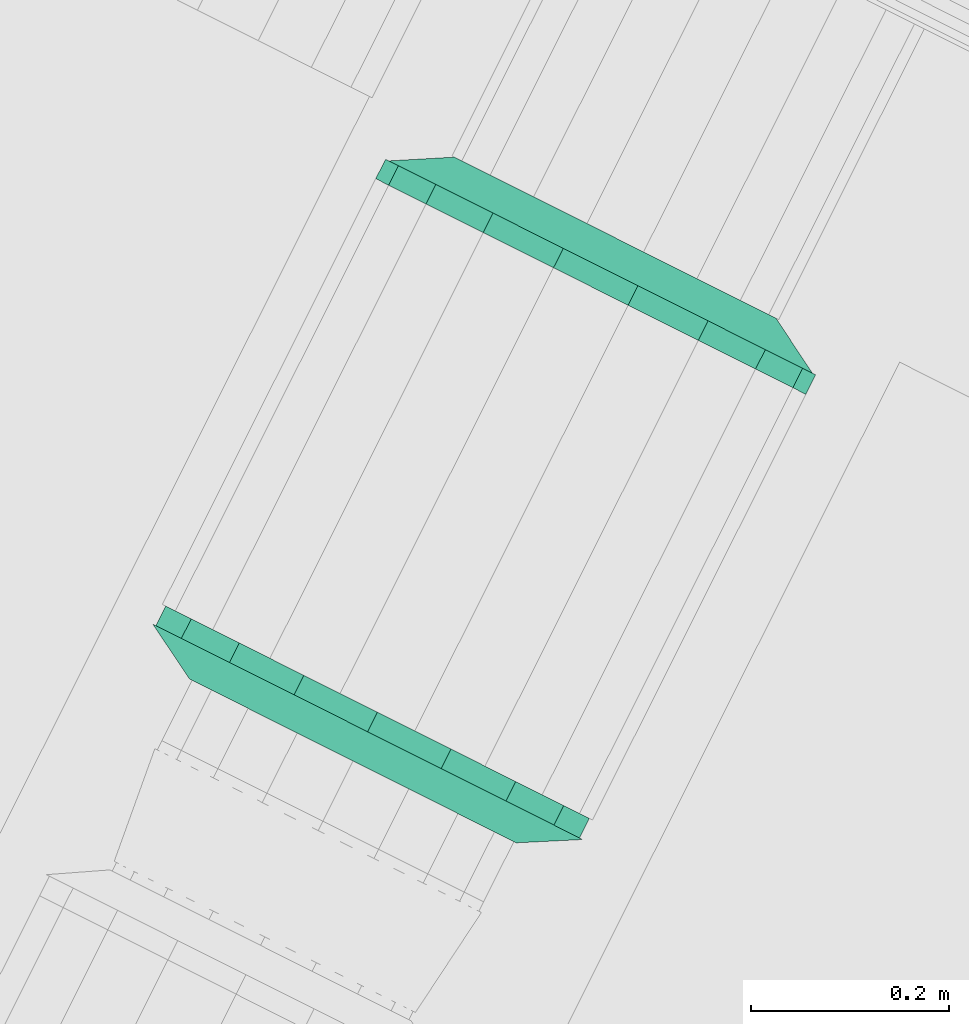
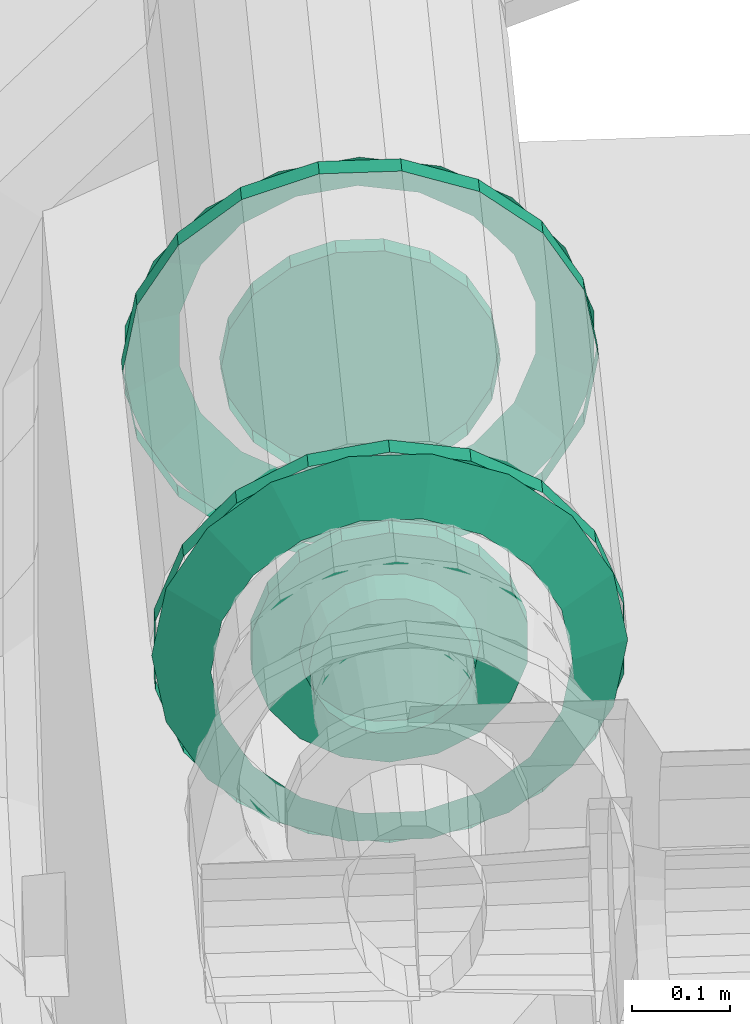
# One storey, part 117 of 206: 2 flow fittings.
"""IFC2X3 building model written with IfcOpenShell, lengths in metres."""

from ifc_helpers import new_model, si_unit, derived_unit, direction, frame, origin, place, context, subcontext, project, spatial, face_set, surface_model, source, transform, mapped, material, type_object, type_shapes, element, save


model = new_model("IFC2X3")

# Units and contexts
model_context = context("Model", 3, precision=5.2338327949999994e-05, world=origin(), true_north=direction((0.0, 1.0)))
body_context = subcontext(model_context, "Body", "Model", "MODEL_VIEW")
ifc_project = project(units=[si_unit("LENGTHUNIT", "METRE"), si_unit("AREAUNIT", "SQUARE_METRE"), si_unit("VOLUMEUNIT", "CUBIC_METRE"), si_unit("MASSUNIT", "GRAM", prefix="KILO"), si_unit("PLANEANGLEUNIT", "RADIAN"), derived_unit("THERMALTRANSMITTANCEUNIT", [(si_unit("MASSUNIT", "GRAM", prefix="KILO"), 1), (si_unit("THERMODYNAMICTEMPERATUREUNIT", "KELVIN"), -1), (si_unit("TIMEUNIT", "SECOND"), -3)])], contexts=[model_context])

# Site, building, storey
site_placement = place(None, frame((0.0, 0.0, 0.0), z_axis=(0.0, 0.0, 1.0), x_axis=(0.8939966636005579, -0.4480736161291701, 0.0)))
site = spatial("IfcSite", under=ifc_project, at=site_placement, Name="Default", CompositionType="ELEMENT")
building_placement = place(site_placement, origin())
building = spatial("IfcBuilding", under=site, at=building_placement, CompositionType="ELEMENT")
storey_placement = place(building_placement, origin())
storey = spatial("IfcBuildingStorey", under=building, at=storey_placement, Name="Erdgeschoss", CompositionType="ELEMENT", Elevation=0.0)

# Flow fittings
ifc_material = material(Name="IfcSurfaceStyle #1741")
distribution_element_type_1 = type_object("IfcDistributionElementType", Name="Flansch 320350:Flansch 320350", material=ifc_material)
shared_shape_1 = source(origin(), body_context, "Body", "SurfaceModel", [
    surface_model("IfcFaceBasedSurfaceModel", [(23.169003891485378, 7.121892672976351, 2.3540000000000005), (23.163929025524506, 7.121892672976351, 2.325219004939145), (23.171305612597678, 7.154892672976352, 2.3225341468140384), (23.17685389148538, 7.154892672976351, 2.354), (23.149316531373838, 7.121892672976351, 2.2999094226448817), (23.15532998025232, 7.15489267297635, 2.2948635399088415), (23.126928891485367, 7.121892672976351, 2.281123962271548), (23.13085389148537, 7.1548926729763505, 2.2743256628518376), (23.09946638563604, 7.12189267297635, 2.2711284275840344), (23.100829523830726, 7.1548926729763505, 2.2633976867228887), (23.070241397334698, 7.12189267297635, 2.2711284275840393), (23.06887825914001, 7.15489267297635, 2.2633976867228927), (23.04277889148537, 7.121892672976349, 2.281123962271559), (23.038853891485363, 7.15489267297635, 2.274325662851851), (23.020391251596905, 7.121892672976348, 2.299909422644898), (23.01437780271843, 7.154892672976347, 2.2948635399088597), (23.005778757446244, 7.121892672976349, 2.3252190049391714), (22.99840217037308, 7.154892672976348, 2.3225341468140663), (23.000703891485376, 7.121892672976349, 2.354000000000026), (22.992853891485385, 7.154892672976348, 2.3540000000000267), (23.005778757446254, 7.12189267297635, 2.382780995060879), (22.998402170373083, 7.15489267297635, 2.3854658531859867), (23.020391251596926, 7.121892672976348, 2.4080905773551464), (23.01437780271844, 7.154892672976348, 2.413136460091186), (23.04277889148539, 7.121892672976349, 2.42687603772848), (23.0388538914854, 7.15489267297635, 2.4336743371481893), (23.070241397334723, 7.121892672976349, 2.4368715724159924), (23.068878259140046, 7.15489267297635, 2.44460231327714), (23.099466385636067, 7.121892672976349, 2.4368715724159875), (23.100829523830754, 7.1548926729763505, 2.444602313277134), (23.126928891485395, 7.121892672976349, 2.4268760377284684), (23.130853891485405, 7.15489267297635, 2.433674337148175), (23.149316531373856, 7.121892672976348, 2.408090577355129), (23.155329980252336, 7.1548926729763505, 2.4131364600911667), (23.16392902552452, 7.12189267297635, 2.382780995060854), (23.17130561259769, 7.1548926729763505, 2.38546585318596), (23.084853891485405, 7.15489267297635, 2.4965000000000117), (23.133591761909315, 7.15489267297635, 2.487906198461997), (23.133591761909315, 7.17689267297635, 2.487906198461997), (23.08485389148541, 7.17689267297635, 2.4965000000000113), (23.176451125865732, 7.154892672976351, 2.463161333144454), (23.176451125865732, 7.176892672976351, 2.4631613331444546), (23.20826251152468, 7.1548926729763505, 2.425249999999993), (23.20826251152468, 7.176892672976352, 2.425249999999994), (23.225188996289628, 7.154892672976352, 2.3787448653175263), (23.225188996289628, 7.176892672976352, 2.3787448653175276), (23.22518899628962, 7.154892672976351, 2.329255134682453), (23.22518899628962, 7.176892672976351, 2.3292551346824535), (23.208262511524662, 7.154892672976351, 2.2827499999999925), (23.208262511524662, 7.176892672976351, 2.282749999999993), (23.176451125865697, 7.154892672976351, 2.244838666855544), (23.176451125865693, 7.176892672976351, 2.244838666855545), (23.13359176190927, 7.1548926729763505, 2.2200938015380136), (23.13359176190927, 7.176892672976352, 2.2200938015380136), (23.08485389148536, 7.1548926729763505, 2.211500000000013), (23.08485389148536, 7.176892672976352, 2.211500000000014), (23.036116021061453, 7.1548926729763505, 2.2200938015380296), (23.036116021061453, 7.17689267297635, 2.2200938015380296), (22.993256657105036, 7.1548926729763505, 2.2448386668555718), (22.993256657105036, 7.17689267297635, 2.2448386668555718), (22.961445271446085, 7.154892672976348, 2.2827500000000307), (22.96144527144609, 7.17689267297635, 2.2827500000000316), (22.944518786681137, 7.154892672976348, 2.3292551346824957), (22.944518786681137, 7.176892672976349, 2.329255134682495), (22.94451878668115, 7.154892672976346, 2.3787448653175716), (22.944518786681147, 7.17689267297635, 2.3787448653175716), (22.961445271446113, 7.15489267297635, 2.425250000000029), (22.961445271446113, 7.176892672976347, 2.425250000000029), (22.99325665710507, 7.15489267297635, 2.4631613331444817), (22.99325665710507, 7.176892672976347, 2.4631613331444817), (23.036116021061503, 7.154892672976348, 2.48790619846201), (23.036116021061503, 7.176892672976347, 2.4879061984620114), (23.084853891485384, 7.154892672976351, 2.354000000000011), (23.26900389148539, 7.121892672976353, 2.353999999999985), (23.257898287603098, 7.121892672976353, 2.2910169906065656), (23.312729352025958, 7.154892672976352, 2.2710601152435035), (23.327353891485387, 7.154892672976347, 2.353999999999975), (23.225920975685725, 7.121892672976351, 2.235630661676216), (23.27061966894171, 7.154892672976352, 2.1981240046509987), (23.176928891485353, 7.121892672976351, 2.1945214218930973), (23.20610389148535, 7.154892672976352, 2.143988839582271), (23.116831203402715, 7.121892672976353, 2.172647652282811), (23.126963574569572, 7.154892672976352, 2.115184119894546), (23.052876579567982, 7.121892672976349, 2.1726476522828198), (23.04274420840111, 7.1548926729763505, 2.115184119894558), (22.99277889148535, 7.121892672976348, 2.194521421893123), (22.96360389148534, 7.15489267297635, 2.143988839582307), (22.943786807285, 7.121892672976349, 2.235630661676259), (22.899088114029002, 7.15489267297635, 2.198124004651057), (22.911809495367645, 7.121892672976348, 2.2910169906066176), (22.856978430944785, 7.154892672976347, 2.2710601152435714), (22.900703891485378, 7.121892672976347, 2.3540000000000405), (22.842353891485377, 7.154892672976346, 2.3540000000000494), (22.91180949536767, 7.121892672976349, 2.4169830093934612), (22.85697843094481, 7.154892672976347, 2.436939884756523), (22.94378680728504, 7.121892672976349, 2.4723693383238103), (22.89908811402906, 7.154892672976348, 2.509875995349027), (22.99277889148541, 7.121892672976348, 2.5134785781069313), (22.963603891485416, 7.154892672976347, 2.564011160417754), (23.052876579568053, 7.12189267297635, 2.535352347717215), (23.0427442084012, 7.154892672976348, 2.592815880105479), (23.116831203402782, 7.121892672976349, 2.5353523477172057), (23.126963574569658, 7.154892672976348, 2.5928158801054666), (23.176928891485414, 7.12189267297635, 2.513478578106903), (23.206103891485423, 7.1548926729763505, 2.5640111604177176), (23.225920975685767, 7.121892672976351, 2.472369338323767), (23.270619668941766, 7.154892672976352, 2.5098759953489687), (23.25789828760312, 7.121892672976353, 2.416983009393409), (23.312729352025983, 7.154892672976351, 2.436939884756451), (23.084853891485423, 7.154892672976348, 2.596500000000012), (23.1677937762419, 7.154892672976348, 2.581875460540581), (23.1677937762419, 7.17689267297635, 2.5818754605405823), (23.084853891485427, 7.17689267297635, 2.5965000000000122), (23.240729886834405, 7.154892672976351, 2.5397657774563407), (23.240729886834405, 7.176892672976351, 2.5397657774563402), (23.294865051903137, 7.154892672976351, 2.475249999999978), (23.294865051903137, 7.176892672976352, 2.4752499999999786), (23.323669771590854, 7.154892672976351, 2.3961096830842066), (23.323669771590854, 7.176892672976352, 2.396109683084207), (23.323669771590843, 7.154892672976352, 2.311890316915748), (23.323669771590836, 7.176892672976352, 2.311890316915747), (23.294865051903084, 7.1548926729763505, 2.2327499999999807), (23.294865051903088, 7.176892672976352, 2.232749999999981), (23.24072988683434, 7.154892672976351, 2.1682342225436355), (23.240729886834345, 7.176892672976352, 2.1682342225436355), (23.167793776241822, 7.154892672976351, 2.126124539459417), (23.167793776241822, 7.176892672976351, 2.126124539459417), (23.08485389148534, 7.1548926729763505, 2.111500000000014), (23.084853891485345, 7.176892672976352, 2.111500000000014), (23.001914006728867, 7.154892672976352, 2.1261245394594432), (23.001914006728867, 7.17689267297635, 2.1261245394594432), (22.928977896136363, 7.15489267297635, 2.1682342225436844), (22.928977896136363, 7.176892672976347, 2.1682342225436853), (22.874842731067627, 7.154892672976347, 2.2327500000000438), (22.874842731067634, 7.176892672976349, 2.232750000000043), (22.84603801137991, 7.154892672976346, 2.3118903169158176), (22.84603801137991, 7.176892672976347, 2.311890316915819), (22.846038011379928, 7.154892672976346, 2.3961096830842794), (22.846038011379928, 7.176892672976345, 2.3961096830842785), (22.874842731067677, 7.154892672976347, 2.475250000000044), (22.87484273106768, 7.176892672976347, 2.4752500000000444), (22.928977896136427, 7.154892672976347, 2.539765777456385), (22.928977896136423, 7.176892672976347, 2.5397657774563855), (23.001914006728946, 7.154892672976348, 2.5818754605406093), (23.001914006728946, 7.17689267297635, 2.581875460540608)], [face_set([[[0, 1, 2, 3]], [[1, 4, 5, 2]], [[4, 6, 7, 5]], [[6, 8, 9, 7]], [[8, 10, 11, 9]], [[10, 12, 13, 11]], [[12, 14, 15, 13]], [[14, 16, 17, 15]], [[16, 18, 19, 17]], [[18, 20, 21, 19]], [[20, 22, 23, 21]], [[22, 24, 25, 23]], [[24, 26, 27, 25]], [[26, 28, 29, 27]], [[28, 30, 31, 29]], [[30, 32, 33, 31]], [[32, 34, 35, 33]], [[34, 0, 3, 35]], [[36, 37, 38, 39]], [[37, 40, 41, 38]], [[40, 42, 43, 41]], [[42, 44, 45, 43]], [[44, 46, 47, 45]], [[46, 48, 49, 47]], [[48, 50, 51, 49]], [[50, 52, 53, 51]], [[52, 54, 55, 53]], [[54, 56, 57, 55]], [[56, 58, 59, 57]], [[58, 60, 61, 59]], [[60, 62, 63, 61]], [[62, 64, 65, 63]], [[64, 66, 67, 65]], [[66, 68, 69, 67]], [[68, 70, 71, 69]], [[70, 36, 39, 71]], [[72, 37, 36]], [[72, 40, 37]], [[72, 42, 40]], [[72, 44, 42]], [[72, 46, 44]], [[72, 48, 46]], [[72, 50, 48]], [[72, 52, 50]], [[72, 54, 52]], [[72, 56, 54]], [[72, 58, 56]], [[72, 60, 58]], [[72, 62, 60]], [[72, 64, 62]], [[72, 66, 64]], [[72, 68, 66]], [[72, 70, 68]], [[72, 36, 70]], [[73, 74, 75, 76]], [[74, 77, 78, 75]], [[77, 79, 80, 78]], [[79, 81, 82, 80]], [[81, 83, 84, 82]], [[83, 85, 86, 84]], [[85, 87, 88, 86]], [[87, 89, 90, 88]], [[89, 91, 92, 90]], [[91, 93, 94, 92]], [[93, 95, 96, 94]], [[95, 97, 98, 96]], [[97, 99, 100, 98]], [[99, 101, 102, 100]], [[101, 103, 104, 102]], [[103, 105, 106, 104]], [[105, 107, 108, 106]], [[107, 73, 76, 108]], [[109, 110, 111, 112]], [[110, 113, 114, 111]], [[113, 115, 116, 114]], [[115, 117, 118, 116]], [[117, 119, 120, 118]], [[119, 121, 122, 120]], [[121, 123, 124, 122]], [[123, 125, 126, 124]], [[125, 127, 128, 126]], [[127, 129, 130, 128]], [[129, 131, 132, 130]], [[131, 133, 134, 132]], [[133, 135, 136, 134]], [[135, 137, 138, 136]], [[137, 139, 140, 138]], [[139, 141, 142, 140]], [[141, 143, 144, 142]], [[143, 109, 112, 144]]])]),
])
type_shapes(distribution_element_type_1, [shared_shape_1])
flow_fitting_1_placement = place(storey_placement, origin())
element("IfcFlowFitting", 1, at=flow_fitting_1_placement, inside=storey, type_object=distribution_element_type_1, material=ifc_material, Name="Flansch", ObjectType="Flansch", context=body_context, shape_type="MappedRepresentation", body=[
    mapped(shared_shape_1, transform((0.0, 0.0, 0.0), scale=1.0)),
])
distribution_element_type_2 = type_object("IfcDistributionElementType", Name="Flansch 320377:Flansch 320377", material=ifc_material)
shared_shape_2 = source(origin(), body_context, "Body", "SurfaceModel", [
    surface_model("IfcFaceBasedSurfaceModel", [(22.942353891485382, 7.656892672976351, 2.354), (22.95094769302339, 7.656892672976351, 2.4027378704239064), (22.95094769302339, 7.678892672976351, 2.4027378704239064), (22.942353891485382, 7.678892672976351, 2.354), (22.975692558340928, 7.656892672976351, 2.445597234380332), (22.975692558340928, 7.678892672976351, 2.445597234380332), (23.013603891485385, 7.656892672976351, 2.4774086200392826), (23.013603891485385, 7.678892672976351, 2.4774086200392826), (23.060109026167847, 7.656892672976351, 2.49433510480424), (23.060109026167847, 7.678892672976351, 2.49433510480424), (23.109598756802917, 7.656892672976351, 2.4943351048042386), (23.109598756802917, 7.678892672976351, 2.4943351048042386), (23.15610389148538, 7.656892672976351, 2.4774086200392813), (23.15610389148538, 7.678892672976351, 2.4774086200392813), (23.194015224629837, 7.656892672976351, 2.445597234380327), (23.194015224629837, 7.678892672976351, 2.445597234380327), (23.218760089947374, 7.656892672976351, 2.402737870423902), (23.218760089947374, 7.678892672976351, 2.402737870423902), (23.227353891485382, 7.656892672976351, 2.353999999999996), (23.227353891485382, 7.678892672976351, 2.353999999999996), (23.218760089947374, 7.656892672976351, 2.30526212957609), (23.218760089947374, 7.678892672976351, 2.30526212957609), (23.19401522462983, 7.656892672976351, 2.262402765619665), (23.19401522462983, 7.678892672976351, 2.262402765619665), (23.15610389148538, 7.656892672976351, 2.230591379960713), (23.15610389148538, 7.678892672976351, 2.230591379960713), (23.109598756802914, 7.656892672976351, 2.213664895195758), (23.109598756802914, 7.678892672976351, 2.213664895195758), (23.06010902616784, 7.656892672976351, 2.213664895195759), (23.06010902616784, 7.678892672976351, 2.213664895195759), (23.013603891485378, 7.656892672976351, 2.230591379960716), (23.013603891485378, 7.678892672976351, 2.230591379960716), (22.975692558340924, 7.656892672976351, 2.262402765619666), (22.975692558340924, 7.678892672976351, 2.262402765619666), (22.950947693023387, 7.656892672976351, 2.305262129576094), (22.950947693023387, 7.678892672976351, 2.305262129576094), (23.084853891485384, 7.6788926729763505, 2.3539999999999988), (23.08485389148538, 7.678892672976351, 2.4459999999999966), (23.116319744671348, 7.678892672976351, 2.440451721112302), (23.11363488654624, 7.711892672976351, 2.433075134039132), (23.084853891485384, 7.711892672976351, 2.438149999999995), (23.14399035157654, 7.678892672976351, 2.4244760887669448), (23.138944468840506, 7.711892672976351, 2.4184626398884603), (23.164528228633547, 7.678892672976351, 2.3999999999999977), (23.15772992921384, 7.711892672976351, 2.396074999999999), (23.175456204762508, 7.678892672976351, 2.3699756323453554), (23.16772546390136, 7.711892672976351, 2.3686124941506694), (23.175456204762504, 7.6788926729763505, 2.338024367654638), (23.16772546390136, 7.711892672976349, 2.3393875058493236), (23.164528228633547, 7.678892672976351, 2.307999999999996), (23.15772992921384, 7.711892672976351, 2.3119249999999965), (23.14399035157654, 7.678892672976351, 2.2835239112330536), (23.1389444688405, 7.711892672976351, 2.2895373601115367), (23.116319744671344, 7.678892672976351, 2.267548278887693), (23.11363488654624, 7.711892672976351, 2.2749248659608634), (23.08485389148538, 7.678892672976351, 2.2619999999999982), (23.08485389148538, 7.711892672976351, 2.2698499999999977), (23.053388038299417, 7.678892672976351, 2.267548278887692), (23.05607289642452, 7.711892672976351, 2.274924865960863), (23.02571743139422, 7.678892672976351, 2.283523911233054), (23.030763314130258, 7.711892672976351, 2.2895373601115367), (23.005179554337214, 7.678892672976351, 2.3080000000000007), (23.011977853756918, 7.711892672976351, 2.3119249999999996), (22.99425157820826, 7.678892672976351, 2.3380243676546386), (23.001982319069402, 7.711892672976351, 2.3393875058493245), (22.99425157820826, 7.678892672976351, 2.3699756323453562), (23.001982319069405, 7.711892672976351, 2.3686124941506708), (23.005179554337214, 7.678892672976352, 2.400000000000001), (23.011977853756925, 7.711892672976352, 2.396075), (23.02571743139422, 7.678892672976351, 2.424476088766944), (23.030763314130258, 7.711892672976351, 2.418462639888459), (23.053388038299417, 7.678892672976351, 2.4404517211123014), (23.056072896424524, 7.711892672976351, 2.4330751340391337), (22.842353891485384, 7.656892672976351, 2.3540000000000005), (22.8569784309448, 7.656892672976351, 2.4369398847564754), (22.8569784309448, 7.678892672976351, 2.4369398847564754), (22.842353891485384, 7.678892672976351, 2.3540000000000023), (22.899088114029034, 7.656892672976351, 2.5098759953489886), (22.899088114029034, 7.678892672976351, 2.5098759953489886), (22.96360389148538, 7.656892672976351, 2.564011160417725), (22.96360389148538, 7.678892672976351, 2.564011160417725), (23.04274420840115, 7.656892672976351, 2.5928158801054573), (23.04274420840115, 7.678892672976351, 2.5928158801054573), (23.126963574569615, 7.656892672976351, 2.592815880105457), (23.126963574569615, 7.678892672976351, 2.592815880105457), (23.206103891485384, 7.656892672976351, 2.564011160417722), (23.206103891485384, 7.678892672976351, 2.564011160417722), (23.27061966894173, 7.656892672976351, 2.509875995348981), (23.27061966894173, 7.678892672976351, 2.509875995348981), (23.312729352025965, 7.656892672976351, 2.4369398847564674), (23.312729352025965, 7.678892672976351, 2.4369398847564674), (23.327353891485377, 7.656892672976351, 2.3539999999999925), (23.327353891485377, 7.678892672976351, 2.3539999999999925), (23.312729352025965, 7.656892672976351, 2.2710601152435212), (23.312729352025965, 7.678892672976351, 2.2710601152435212), (23.27061966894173, 7.656892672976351, 2.198124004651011), (23.27061966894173, 7.678892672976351, 2.198124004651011), (23.206103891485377, 7.656892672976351, 2.143988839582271), (23.206103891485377, 7.678892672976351, 2.143988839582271), (23.12696357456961, 7.656892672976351, 2.1151841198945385), (23.12696357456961, 7.678892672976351, 2.1151841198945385), (23.04274420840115, 7.656892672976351, 2.1151841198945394), (23.04274420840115, 7.678892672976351, 2.1151841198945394), (22.963603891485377, 7.656892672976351, 2.143988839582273), (22.963603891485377, 7.678892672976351, 2.143988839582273), (22.89908811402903, 7.656892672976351, 2.1981240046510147), (22.89908811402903, 7.678892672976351, 2.1981240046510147), (22.8569784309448, 7.656892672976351, 2.271060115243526), (22.8569784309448, 7.678892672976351, 2.271060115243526), (23.084853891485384, 7.678892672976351, 2.5964999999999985), (23.16779377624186, 7.678892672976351, 2.58187546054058), (23.1478369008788, 7.711892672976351, 2.527044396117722), (23.084853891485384, 7.711892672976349, 2.5381499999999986), (23.24072988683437, 7.678892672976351, 2.539765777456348), (23.20322322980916, 7.711892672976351, 2.495067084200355), (23.29486505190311, 7.678892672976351, 2.4752499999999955), (23.244332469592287, 7.711892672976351, 2.4460749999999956), (23.323669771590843, 7.678892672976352, 2.396109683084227), (23.266206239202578, 7.711892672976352, 2.3859773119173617), (23.323669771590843, 7.6788926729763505, 2.3118903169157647), (23.266206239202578, 7.711892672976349, 2.3220226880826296), (23.294865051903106, 7.678892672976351, 2.232749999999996), (23.244332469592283, 7.711892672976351, 2.2619249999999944), (23.240729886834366, 7.678892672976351, 2.168234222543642), (23.203223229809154, 7.711892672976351, 2.212932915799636), (23.167793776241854, 7.678892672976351, 2.1261245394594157), (23.147836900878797, 7.711892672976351, 2.180955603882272), (23.08485389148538, 7.678892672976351, 2.1115), (23.08485389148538, 7.711892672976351, 2.1698499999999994), (23.001914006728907, 7.678892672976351, 2.1261245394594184), (23.021870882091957, 7.711892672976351, 2.1809556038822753), (22.928977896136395, 7.678892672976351, 2.168234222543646), (22.966484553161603, 7.711892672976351, 2.2129329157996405), (22.874842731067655, 7.6788926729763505, 2.232750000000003), (22.925375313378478, 7.711892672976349, 2.2619249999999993), (22.84603801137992, 7.678892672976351, 2.31189031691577), (22.903501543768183, 7.711892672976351, 2.322022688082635), (22.846038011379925, 7.6788926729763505, 2.396109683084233), (22.903501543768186, 7.711892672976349, 2.3859773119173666), (22.87484273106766, 7.678892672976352, 2.475250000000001), (22.925375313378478, 7.711892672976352, 2.446075), (22.9289778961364, 7.6788926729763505, 2.539765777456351), (22.966484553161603, 7.711892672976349, 2.49506708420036), (23.00191400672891, 7.678892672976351, 2.581875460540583), (23.021870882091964, 7.711892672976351, 2.527044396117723)], [face_set([[[0, 1, 2, 3]], [[1, 4, 5, 2]], [[4, 6, 7, 5]], [[6, 8, 9, 7]], [[8, 10, 11, 9]], [[10, 12, 13, 11]], [[12, 14, 15, 13]], [[14, 16, 17, 15]], [[16, 18, 19, 17]], [[18, 20, 21, 19]], [[20, 22, 23, 21]], [[22, 24, 25, 23]], [[24, 26, 27, 25]], [[26, 28, 29, 27]], [[28, 30, 31, 29]], [[30, 32, 33, 31]], [[32, 34, 35, 33]], [[34, 0, 3, 35]], [[36, 35, 3]], [[36, 33, 35]], [[36, 31, 33]], [[36, 29, 31]], [[36, 27, 29]], [[36, 25, 27]], [[36, 23, 25]], [[36, 21, 23]], [[36, 19, 21]], [[36, 17, 19]], [[36, 15, 17]], [[36, 13, 15]], [[36, 11, 13]], [[36, 9, 11]], [[36, 7, 9]], [[36, 5, 7]], [[36, 2, 5]], [[36, 3, 2]], [[37, 38, 39, 40]], [[38, 41, 42, 39]], [[41, 43, 44, 42]], [[43, 45, 46, 44]], [[45, 47, 48, 46]], [[47, 49, 50, 48]], [[49, 51, 52, 50]], [[51, 53, 54, 52]], [[53, 55, 56, 54]], [[55, 57, 58, 56]], [[57, 59, 60, 58]], [[59, 61, 62, 60]], [[61, 63, 64, 62]], [[63, 65, 66, 64]], [[65, 67, 68, 66]], [[67, 69, 70, 68]], [[69, 71, 72, 70]], [[71, 37, 40, 72]], [[73, 74, 75, 76]], [[74, 77, 78, 75]], [[77, 79, 80, 78]], [[79, 81, 82, 80]], [[81, 83, 84, 82]], [[83, 85, 86, 84]], [[85, 87, 88, 86]], [[87, 89, 90, 88]], [[89, 91, 92, 90]], [[91, 93, 94, 92]], [[93, 95, 96, 94]], [[95, 97, 98, 96]], [[97, 99, 100, 98]], [[99, 101, 102, 100]], [[101, 103, 104, 102]], [[103, 105, 106, 104]], [[105, 107, 108, 106]], [[107, 73, 76, 108]], [[109, 110, 111, 112]], [[110, 113, 114, 111]], [[113, 115, 116, 114]], [[115, 117, 118, 116]], [[117, 119, 120, 118]], [[119, 121, 122, 120]], [[121, 123, 124, 122]], [[123, 125, 126, 124]], [[125, 127, 128, 126]], [[127, 129, 130, 128]], [[129, 131, 132, 130]], [[131, 133, 134, 132]], [[133, 135, 136, 134]], [[135, 137, 138, 136]], [[137, 139, 140, 138]], [[139, 141, 142, 140]], [[141, 143, 144, 142]], [[143, 109, 112, 144]]])]),
])
type_shapes(distribution_element_type_2, [shared_shape_2])
flow_fitting_2_placement = place(storey_placement, origin())
element("IfcFlowFitting", 2, at=flow_fitting_2_placement, inside=storey, type_object=distribution_element_type_2, material=ifc_material, Name="Flansch", ObjectType="Flansch", context=body_context, shape_type="MappedRepresentation", body=[
    mapped(shared_shape_2, transform((0.0, 0.0, 0.0), scale=1.0)),
])

save(model, "model.ifc")
